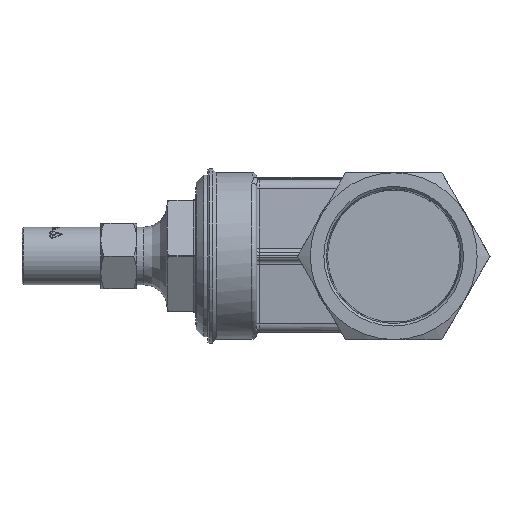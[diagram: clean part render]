
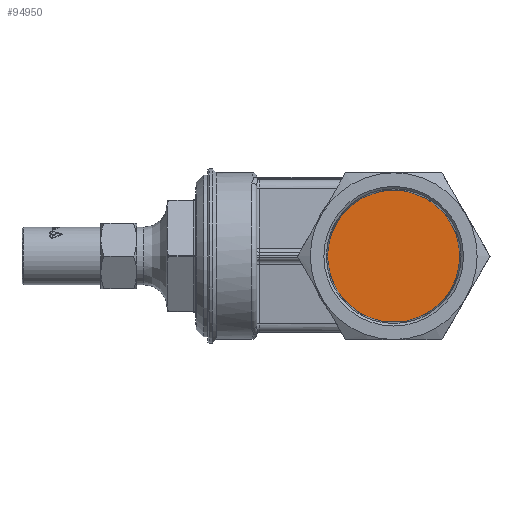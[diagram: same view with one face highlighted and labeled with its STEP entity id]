
A CAD part, left-side view. The second image highlights one B-rep face of the part: STEP entity #94950.
In plain terms, the highlighted planar face has unit normal (-1, 0, 0).
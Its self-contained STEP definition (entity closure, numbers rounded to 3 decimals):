
#94927=CARTESIAN_POINT('',(15.9,-27.745,0.0));
#94928=VERTEX_POINT('',#94927);
#94929=CARTESIAN_POINT('',(15.9,0.,0.0));
#94930=DIRECTION('',(-1.0,0.0,0.0));
#94931=DIRECTION('',(0.0,-1.0,0.0));
#94932=AXIS2_PLACEMENT_3D('',#94929,#94930,#94931);
#94933=CIRCLE('',#94932,27.745);
#94934=EDGE_CURVE('',#94928,#94928,#94933,.T.);
#94942=CARTESIAN_POINT('',(15.9,-13.872,0.0));
#94943=DIRECTION('',(-1.0,0.0,0.0));
#94944=DIRECTION('',(0.0,0.0,1.0));
#94945=AXIS2_PLACEMENT_3D('',#94942,#94943,#94944);
#94946=PLANE('',#94945);
#94947=ORIENTED_EDGE('',*,*,#94934,.T.);
#94948=EDGE_LOOP('',(#94947));
#94949=FACE_OUTER_BOUND('',#94948,.T.);
#94950=ADVANCED_FACE('',(#94949),#94946,.T.);
